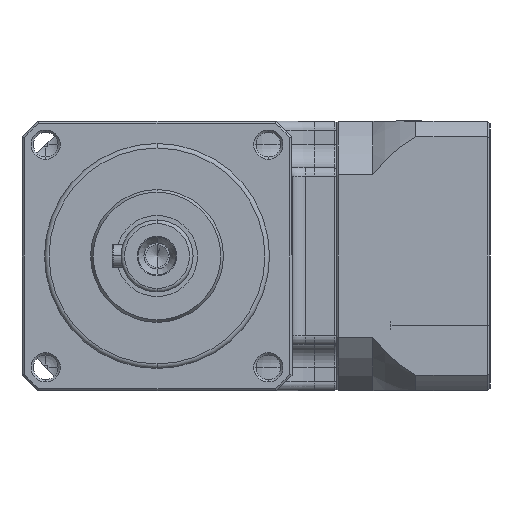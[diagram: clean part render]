
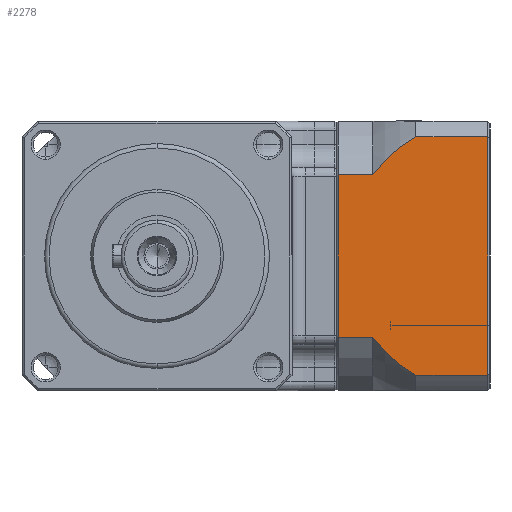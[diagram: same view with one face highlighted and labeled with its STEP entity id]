
A CAD part, left-side view. The second image highlights one B-rep face of the part: STEP entity #2278.
In plain terms, the highlighted planar face has unit normal (-1, 0, 0).
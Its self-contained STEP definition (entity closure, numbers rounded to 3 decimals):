
#21 = VECTOR ( 'NONE', #10875, 1000. ) ;
#142 = ORIENTED_EDGE ( 'NONE', *, *, #10802, .T. ) ;
#143 = CARTESIAN_POINT ( 'NONE',  ( -57.118, -5.087, -6.359 ) ) ;
#370 = VECTOR ( 'NONE', #8325, 1000. ) ;
#376 = VERTEX_POINT ( 'NONE', #7847 ) ;
#959 = CARTESIAN_POINT ( 'NONE',  ( -57.118, -7.265, -8.684 ) ) ;
#977 = LINE ( 'NONE', #5511, #10910 ) ;
#1488 = VERTEX_POINT ( 'NONE', #8562 ) ;
#1503 = CARTESIAN_POINT ( 'NONE',  ( -57.118, -3.783, 31.4 ) ) ;
#1681 = CARTESIAN_POINT ( 'NONE',  ( -57.118, -29.283, 39.83 ) ) ;
#1708 = ORIENTED_EDGE ( 'NONE', *, *, #2569, .T. ) ;
#1722 = VECTOR ( 'NONE', #7852, 1000. ) ;
#1737 = VERTEX_POINT ( 'NONE', #3524 ) ;
#1757 = DIRECTION ( 'NONE',  ( 0., -1., 0. ) ) ;
#2278 = ADVANCED_FACE ( 'NONE', ( #3884 ), #8359, .T. ) ;
#2382 = CARTESIAN_POINT ( 'NONE',  ( -57.118, -6.047, 31.4 ) ) ;
#2557 = VERTEX_POINT ( 'NONE', #7043 ) ;
#2569 = EDGE_CURVE ( 'NONE', #1737, #8263, #7346, .T. ) ;
#2773 = CARTESIAN_POINT ( 'NONE',  ( -57.118, -12.816, -12.828 ) ) ;
#2821 = CARTESIAN_POINT ( 'NONE',  ( -57.118, -8.852, -10.094 ) ) ;
#2858 = CARTESIAN_POINT ( 'NONE',  ( -57.118, -10.998, -11.687 ) ) ;
#2988 = ORIENTED_EDGE ( 'NONE', *, *, #8409, .T. ) ;
#3041 = ORIENTED_EDGE ( 'NONE', *, *, #7029, .T. ) ;
#3233 = EDGE_CURVE ( 'NONE', #10349, #1488, #4759, .T. ) ;
#3524 = CARTESIAN_POINT ( 'NONE',  ( -57.118, -13.283, -13.085 ) ) ;
#3689 = CARTESIAN_POINT ( 'NONE',  ( -57.118, -8.855, 36.843 ) ) ;
#3709 = CARTESIAN_POINT ( 'NONE',  ( -57.118, 3.917, -4.655 ) ) ;
#3856 = LINE ( 'NONE', #4838, #370 ) ;
#3884 = FACE_OUTER_BOUND ( 'NONE', #10217, .T. ) ;
#4302 = ORIENTED_EDGE ( 'NONE', *, *, #3233, .T. ) ;
#4403 = EDGE_CURVE ( 'NONE', #2557, #8660, #9059, .T. ) ;
#4510 = CARTESIAN_POINT ( 'NONE',  ( -57.118, -13.283, -13.085 ) ) ;
#4549 = CARTESIAN_POINT ( 'NONE',  ( -57.118, -5.036, 33.135 ) ) ;
#4588 = CARTESIAN_POINT ( 'NONE',  ( -57.118, -11.45, 38.752 ) ) ;
#4759 = LINE ( 'NONE', #3709, #21 ) ;
#4838 = CARTESIAN_POINT ( 'NONE',  ( -57.118, -6.047, 39.83 ) ) ;
#5099 = CARTESIAN_POINT ( 'NONE',  ( -57.118, -29.283, -13.085 ) ) ;
#5310 = EDGE_CURVE ( 'NONE', #8660, #10349, #6746, .T. ) ;
#5481 = CARTESIAN_POINT ( 'NONE',  ( -57.118, -3.783, 31.4 ) ) ;
#5511 = CARTESIAN_POINT ( 'NONE',  ( -57.118, -6.047, -4.655 ) ) ;
#5647 = CARTESIAN_POINT ( 'NONE',  ( -57.118, 3.917, 31.4 ) ) ;
#6245 = VECTOR ( 'NONE', #7042, 1000. ) ;
#6265 = CARTESIAN_POINT ( 'NONE',  ( -57.118, -13.283, 39.83 ) ) ;
#6300 = CARTESIAN_POINT ( 'NONE',  ( -57.118, -6.512, -7.937 ) ) ;
#6377 = CARTESIAN_POINT ( 'NONE',  ( -57.118, -4.413, -5.527 ) ) ;
#6511 = EDGE_CURVE ( 'NONE', #376, #2557, #3856, .T. ) ;
#6557 = DIRECTION ( 'NONE',  ( -1., 0., 0. ) ) ;
#6746 = LINE ( 'NONE', #2382, #1722 ) ;
#7029 = EDGE_CURVE ( 'NONE', #10810, #1737, #10364, .T. ) ;
#7042 = DIRECTION ( 'NONE',  ( 0., 0., 1. ) ) ;
#7043 = CARTESIAN_POINT ( 'NONE',  ( -57.118, -13.283, 39.83 ) ) ;
#7077 = CARTESIAN_POINT ( 'NONE',  ( -57.118, -6.047, -13.085 ) ) ;
#7189 = CARTESIAN_POINT ( 'NONE',  ( -57.118, -12.356, -12.557 ) ) ;
#7278 = DIRECTION ( 'NONE',  ( 0., -1., 0. ) ) ;
#7346 = LINE ( 'NONE', #7077, #10020 ) ;
#7646 = AXIS2_PLACEMENT_3D ( 'NONE', #8481, #6557, #11111 ) ;
#7788 = LINE ( 'NONE', #1681, #6245 ) ;
#7847 = CARTESIAN_POINT ( 'NONE',  ( -57.118, -29.283, 39.83 ) ) ;
#7852 = DIRECTION ( 'NONE',  ( 0., 1., 0. ) ) ;
#8061 = ORIENTED_EDGE ( 'NONE', *, *, #6511, .T. ) ;
#8263 = VERTEX_POINT ( 'NONE', #5099 ) ;
#8325 = DIRECTION ( 'NONE',  ( 0., 1., 0. ) ) ;
#8359 = PLANE ( 'NONE',  #7646 ) ;
#8409 = EDGE_CURVE ( 'NONE', #8263, #376, #7788, .T. ) ;
#8481 = CARTESIAN_POINT ( 'NONE',  ( -57.118, -29.783, 43.373 ) ) ;
#8562 = CARTESIAN_POINT ( 'NONE',  ( -57.118, 3.917, -4.655 ) ) ;
#8620 = ORIENTED_EDGE ( 'NONE', *, *, #5310, .T. ) ;
#8660 = VERTEX_POINT ( 'NONE', #1503 ) ;
#8988 = CARTESIAN_POINT ( 'NONE',  ( -57.118, -9.685, -10.758 ) ) ;
#9021 = CARTESIAN_POINT ( 'NONE',  ( -57.118, -3.783, -4.655 ) ) ;
#9059 = B_SPLINE_CURVE_WITH_KNOTS ( 'NONE', 3,
 ( #6265, #9792, #4588, #10695, #3689, #10849, #4549, #5481 ),
 .UNSPECIFIED., .F., .F.,
 ( 4, 2, 2, 4 ),
 ( 0.153, 0.156, 0.16, 0.166 ),
 .UNSPECIFIED. ) ;
#9246 = CARTESIAN_POINT ( 'NONE',  ( -57.118, -3.783, -4.655 ) ) ;
#9267 = ORIENTED_EDGE ( 'NONE', *, *, #4403, .T. ) ;
#9792 = CARTESIAN_POINT ( 'NONE',  ( -57.118, -12.352, 39.317 ) ) ;
#9978 = CARTESIAN_POINT ( 'NONE',  ( -57.118, -11.447, -11.987 ) ) ;
#10020 = VECTOR ( 'NONE', #1757, 1000. ) ;
#10217 = EDGE_LOOP ( 'NONE', ( #8620, #4302, #142, #3041, #1708, #2988, #8061, #9267 ) ) ;
#10349 = VERTEX_POINT ( 'NONE', #5647 ) ;
#10364 = B_SPLINE_CURVE_WITH_KNOTS ( 'NONE', 3,
 ( #9021, #6377, #143, #6300, #959, #2821, #8988, #2858, #9978, #7189, #2773, #4510 ),
 .UNSPECIFIED., .F., .F.,
 ( 4, 2, 2, 2, 2, 4 ),
 ( 0.019, 0.022, 0.026, 0.029, 0.03, 0.032 ),
 .UNSPECIFIED. ) ;
#10695 = CARTESIAN_POINT ( 'NONE',  ( -57.118, -9.702, 37.516 ) ) ;
#10802 = EDGE_CURVE ( 'NONE', #1488, #10810, #977, .T. ) ;
#10810 = VERTEX_POINT ( 'NONE', #9246 ) ;
#10849 = CARTESIAN_POINT ( 'NONE',  ( -57.118, -6.46, 34.713 ) ) ;
#10875 = DIRECTION ( 'NONE',  ( 0., 0., -1. ) ) ;
#10910 = VECTOR ( 'NONE', #7278, 1000. ) ;
#11111 = DIRECTION ( 'NONE',  ( 0., 0., 1. ) ) ;
